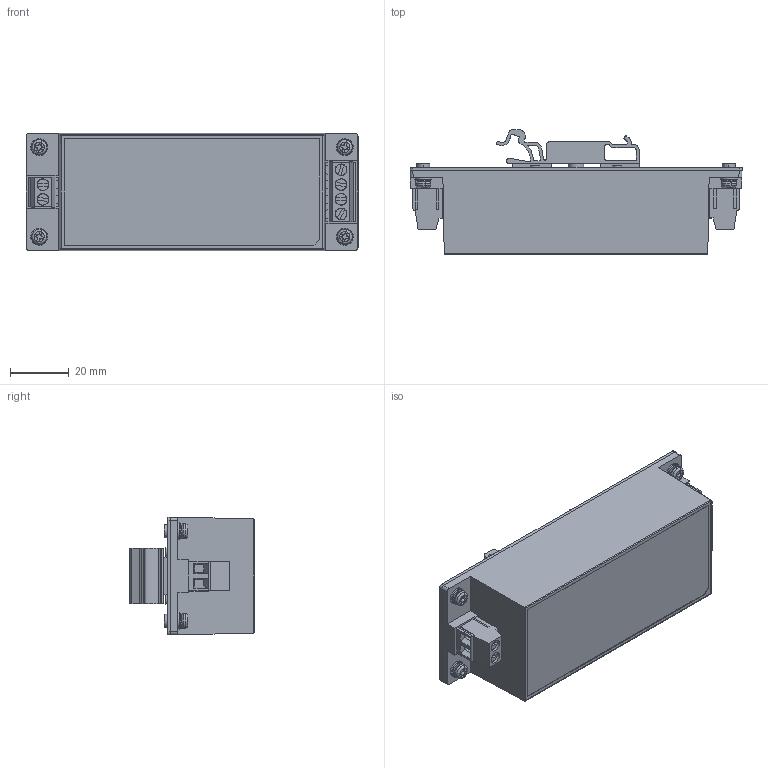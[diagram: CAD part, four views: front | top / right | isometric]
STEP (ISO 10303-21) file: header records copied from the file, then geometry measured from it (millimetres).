
FILE_DESCRIPTION (( 'STEP AP214' ), '1' );
FILE_NAME ('ECE60-SD STEP.STEP', '2014-12-10T20:02:22', ( '' ), ( '' ), 'SwSTEP 2.0', 'SolidWorks 2015', '' );
FILE_SCHEMA (( 'AUTOMOTIVE_DESIGN' ));
Length unit declared in the file: inch
Products named in the file (13): ECE60 SERIES base insert; ECE60-S BASE; ECE60-S CASE; ECE60-S PCB; EK508V-2 input conn; EK508V-4 output conn; Nut M3.5x2.5mm; ECE60-SD STEP; ECE60-S DIN RAIL PLATE; M3.5x8mm; DIN CLIP PLASTIC; M3x6mm SMP+2W; ECE60-S
Assembly tree (15 placements, depth 3):
  ECE60-SD STEP
    Nut M3.5x2.5mm
    ECE60-S
      EK508V-4 output conn
      EK508V-2 input conn
      ECE60-S PCB
      ECE60-S CASE
      ECE60-S BASE
      ECE60 SERIES base insert
    M3x6mm SMP+2W  x4
    DIN CLIP PLASTIC
    M3.5x8mm
    ECE60-S DIN RAIL PLATE
Bounding box: 113 x 42.25 x 40 mm (x, y, z)
Volume: 35402.7 mm3; surface area: 58887.5 mm2
Topology: 14 solids, 14 shells, 1264 faces, 3443 edges, 2276 vertices
Faces by surface type: plane 780, cylinder 346, bspline 93, cone 45
Entity records: 56084 total; most frequent: CARTESIAN_POINT 14274, ORIENTED_EDGE 5908, DIRECTION 5223, EDGE_CURVE 2954, VECTOR 2167, LINE 2167, VERTEX_POINT 1943, AXIS2_PLACEMENT_3D 1528
